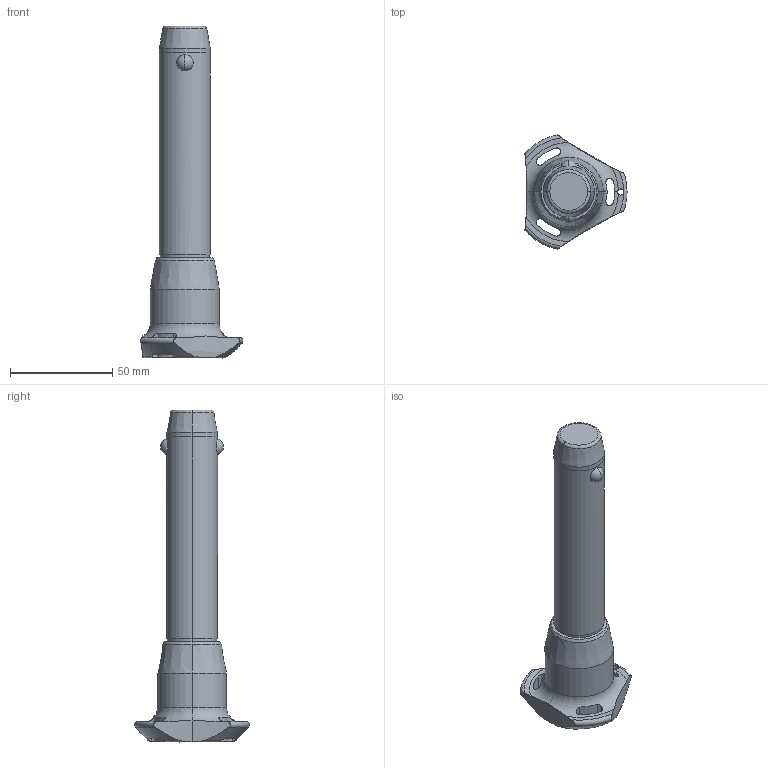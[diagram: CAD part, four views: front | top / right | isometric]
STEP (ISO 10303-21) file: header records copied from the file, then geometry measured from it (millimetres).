
FILE_DESCRIPTION (( 'STEP AP203' ), '1' );
FILE_NAME ('QR1716.M25-090-T.step', '2025-11-13T10:46:24', ( '' ), ( '' ), 'SwSTEP 2.0', 'SolidWorks 2019', '' );
FILE_SCHEMA (( 'CONFIG_CONTROL_DESIGN' ));
Length unit declared in the file: millimetre
Products named in the file (1): QR1716.M25-090-T
Bounding box: 50.04 x 56.02 x 162.7 mm (x, y, z)
Volume: 102630.4 mm3; surface area: 18518.4 mm2
Topology: 1 solids, 1 shells, 68 faces, 182 edges, 115 vertices
Faces by surface type: cylinder 32, cone 14, torus 11, sphere 6, plane 5
Entity records: 2938 total; most frequent: CARTESIAN_POINT 1192, ORIENTED_EDGE 364, DIRECTION 345, EDGE_CURVE 182, AXIS2_PLACEMENT_3D 154, VERTEX_POINT 115, CIRCLE 85, EDGE_LOOP 75
